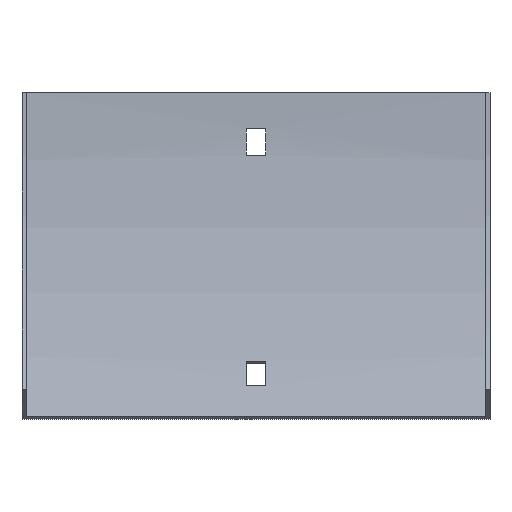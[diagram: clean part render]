
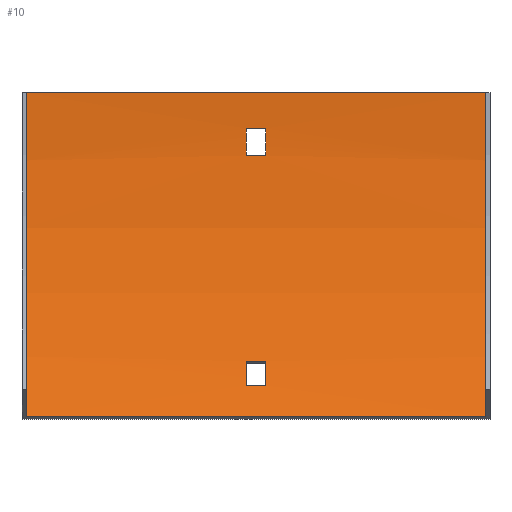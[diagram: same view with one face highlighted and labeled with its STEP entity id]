
A CAD part, front view. The second image highlights one B-rep face of the part: STEP entity #10.
In plain terms, the highlighted cylindrical face has radius 217.5 mm (diameter 435 mm), a partial arc.
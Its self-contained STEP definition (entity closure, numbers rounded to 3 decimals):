
#10 = ADVANCED_FACE ( 'NONE', ( #335, #57, #468 ), #531, .F. ) ;
#11 = DIRECTION ( 'NONE',  ( 0., 0., 1. ) ) ;
#13 = VERTEX_POINT ( 'NONE', #44 ) ;
#21 = AXIS2_PLACEMENT_3D ( 'NONE', #429, #384, #11 ) ;
#29 = EDGE_CURVE ( 'NONE', #536, #160, #91, .T. ) ;
#31 = CIRCLE ( 'NONE', #501, 217.5 ) ;
#32 = VERTEX_POINT ( 'NONE', #343 ) ;
#44 = CARTESIAN_POINT ( 'NONE',  ( -3.25, -1.831, -12. ) ) ;
#45 = CARTESIAN_POINT ( 'NONE',  ( 77., -1.5, 0. ) ) ;
#46 = EDGE_CURVE ( 'NONE', #529, #363, #461, .T. ) ;
#49 = DIRECTION ( 'NONE',  ( 0., 0., -1. ) ) ;
#52 = CARTESIAN_POINT ( 'NONE',  ( -3.25, -21.02, -90.055 ) ) ;
#55 = ORIENTED_EDGE ( 'NONE', *, *, #200, .T. ) ;
#57 = FACE_OUTER_BOUND ( 'NONE', #73, .T. ) ;
#64 = CARTESIAN_POINT ( 'NONE',  ( -3.25, -2.516, -21. ) ) ;
#73 = EDGE_LOOP ( 'NONE', ( #228, #458, #451, #178 ) ) ;
#79 = VERTEX_POINT ( 'NONE', #64 ) ;
#87 = CARTESIAN_POINT ( 'NONE',  ( -77., -1.5, 0. ) ) ;
#88 = CARTESIAN_POINT ( 'NONE',  ( -3.25, -219., 0. ) ) ;
#91 = CIRCLE ( 'NONE', #568, 217.5 ) ;
#95 = CARTESIAN_POINT ( 'NONE',  ( 77., -1.5, 0. ) ) ;
#103 = CARTESIAN_POINT ( 'NONE',  ( 78.5, -21.02, -90.055 ) ) ;
#104 = EDGE_CURVE ( 'NONE', #79, #536, #599, .T. ) ;
#105 = LINE ( 'NONE', #103, #355 ) ;
#110 = VECTOR ( 'NONE', #279, 1000. ) ;
#128 = LINE ( 'NONE', #95, #444 ) ;
#131 = VECTOR ( 'NONE', #560, 1000. ) ;
#132 = EDGE_CURVE ( 'NONE', #13, #79, #323, .T. ) ;
#150 = DIRECTION ( 'NONE',  ( 1., 0., 0. ) ) ;
#160 = VERTEX_POINT ( 'NONE', #285 ) ;
#162 = ORIENTED_EDGE ( 'NONE', *, *, #467, .F. ) ;
#167 = CIRCLE ( 'NONE', #21, 217.5 ) ;
#175 = CARTESIAN_POINT ( 'NONE',  ( -77., -30.639, -108.75 ) ) ;
#178 = ORIENTED_EDGE ( 'NONE', *, *, #231, .T. ) ;
#191 = DIRECTION ( 'NONE',  ( 1., 0., 0. ) ) ;
#200 = EDGE_CURVE ( 'NONE', #32, #529, #273, .T. ) ;
#203 = ORIENTED_EDGE ( 'NONE', *, *, #29, .F. ) ;
#204 = CARTESIAN_POINT ( 'NONE',  ( -3.25, -24.926, -98.192 ) ) ;
#209 = VERTEX_POINT ( 'NONE', #87 ) ;
#228 = ORIENTED_EDGE ( 'NONE', *, *, #378, .F. ) ;
#231 = EDGE_CURVE ( 'NONE', #367, #209, #128, .T. ) ;
#234 = EDGE_CURVE ( 'NONE', #295, #32, #31, .T. ) ;
#237 = DIRECTION ( 'NONE',  ( -1., 0., 0. ) ) ;
#238 = DIRECTION ( 'NONE',  ( 0., 0., 1. ) ) ;
#245 = EDGE_CURVE ( 'NONE', #497, #267, #466, .T. ) ;
#258 = LINE ( 'NONE', #580, #345 ) ;
#267 = VERTEX_POINT ( 'NONE', #175 ) ;
#273 = LINE ( 'NONE', #594, #131 ) ;
#279 = DIRECTION ( 'NONE',  ( 1., 0., 0. ) ) ;
#285 = CARTESIAN_POINT ( 'NONE',  ( 3.25, -1.831, -12. ) ) ;
#289 = EDGE_CURVE ( 'NONE', #363, #295, #105, .T. ) ;
#295 = VERTEX_POINT ( 'NONE', #337 ) ;
#304 = ORIENTED_EDGE ( 'NONE', *, *, #104, .F. ) ;
#305 = CARTESIAN_POINT ( 'NONE',  ( 3.25, -2.516, -21. ) ) ;
#306 = VECTOR ( 'NONE', #237, 1000. ) ;
#308 = CARTESIAN_POINT ( 'NONE',  ( 77., -30.639, -108.75 ) ) ;
#323 = CIRCLE ( 'NONE', #374, 217.5 ) ;
#325 = DIRECTION ( 'NONE',  ( -1., 0., 0. ) ) ;
#327 = CARTESIAN_POINT ( 'NONE',  ( 3.25, -219., 0. ) ) ;
#335 = FACE_BOUND ( 'NONE', #432, .T. ) ;
#337 = CARTESIAN_POINT ( 'NONE',  ( 3.25, -21.02, -90.055 ) ) ;
#338 = EDGE_CURVE ( 'NONE', #497, #367, #515, .T. ) ;
#343 = CARTESIAN_POINT ( 'NONE',  ( 3.25, -24.926, -98.192 ) ) ;
#345 = VECTOR ( 'NONE', #442, 1000. ) ;
#353 = AXIS2_PLACEMENT_3D ( 'NONE', #517, #325, #238 ) ;
#355 = VECTOR ( 'NONE', #150, 1000. ) ;
#363 = VERTEX_POINT ( 'NONE', #52 ) ;
#367 = VERTEX_POINT ( 'NONE', #45 ) ;
#368 = CARTESIAN_POINT ( 'NONE',  ( 78.5, -2.516, -21. ) ) ;
#370 = DIRECTION ( 'NONE',  ( 0., 0., 1. ) ) ;
#374 = AXIS2_PLACEMENT_3D ( 'NONE', #88, #553, #470 ) ;
#378 = EDGE_CURVE ( 'NONE', #267, #209, #167, .T. ) ;
#383 = DIRECTION ( 'NONE',  ( 0., 0., 1. ) ) ;
#384 = DIRECTION ( 'NONE',  ( 1., 0., 0. ) ) ;
#398 = EDGE_LOOP ( 'NONE', ( #55, #606, #443, #402 ) ) ;
#402 = ORIENTED_EDGE ( 'NONE', *, *, #234, .T. ) ;
#410 = DIRECTION ( 'NONE',  ( -1., 0., 0. ) ) ;
#423 = AXIS2_PLACEMENT_3D ( 'NONE', #512, #191, #484 ) ;
#426 = CARTESIAN_POINT ( 'NONE',  ( 77., -219., 0. ) ) ;
#429 = CARTESIAN_POINT ( 'NONE',  ( -77., -219., 0. ) ) ;
#431 = AXIS2_PLACEMENT_3D ( 'NONE', #426, #472, #383 ) ;
#432 = EDGE_LOOP ( 'NONE', ( #581, #162, #203, #304 ) ) ;
#442 = DIRECTION ( 'NONE',  ( -1., 0., 0. ) ) ;
#443 = ORIENTED_EDGE ( 'NONE', *, *, #289, .T. ) ;
#444 = VECTOR ( 'NONE', #410, 1000. ) ;
#451 = ORIENTED_EDGE ( 'NONE', *, *, #338, .T. ) ;
#458 = ORIENTED_EDGE ( 'NONE', *, *, #245, .F. ) ;
#461 = CIRCLE ( 'NONE', #423, 217.5 ) ;
#466 = LINE ( 'NONE', #556, #306 ) ;
#467 = EDGE_CURVE ( 'NONE', #160, #13, #258, .T. ) ;
#468 = FACE_BOUND ( 'NONE', #398, .T. ) ;
#470 = DIRECTION ( 'NONE',  ( 0., 0., 1. ) ) ;
#471 = CARTESIAN_POINT ( 'NONE',  ( 3.25, -219., 0. ) ) ;
#472 = DIRECTION ( 'NONE',  ( 1., 0., 0. ) ) ;
#484 = DIRECTION ( 'NONE',  ( 0., 0., -1. ) ) ;
#497 = VERTEX_POINT ( 'NONE', #308 ) ;
#501 = AXIS2_PLACEMENT_3D ( 'NONE', #327, #601, #370 ) ;
#512 = CARTESIAN_POINT ( 'NONE',  ( -3.25, -219., 0. ) ) ;
#515 = CIRCLE ( 'NONE', #431, 217.5 ) ;
#517 = CARTESIAN_POINT ( 'NONE',  ( 78.5, -219., 0. ) ) ;
#529 = VERTEX_POINT ( 'NONE', #204 ) ;
#531 = CYLINDRICAL_SURFACE ( 'NONE', #353, 217.5 ) ;
#536 = VERTEX_POINT ( 'NONE', #305 ) ;
#553 = DIRECTION ( 'NONE',  ( -1., 0., 0. ) ) ;
#556 = CARTESIAN_POINT ( 'NONE',  ( 77., -30.639, -108.75 ) ) ;
#560 = DIRECTION ( 'NONE',  ( -1., 0., 0. ) ) ;
#568 = AXIS2_PLACEMENT_3D ( 'NONE', #471, #574, #49 ) ;
#574 = DIRECTION ( 'NONE',  ( 1., 0., 0. ) ) ;
#580 = CARTESIAN_POINT ( 'NONE',  ( 78.5, -1.831, -12. ) ) ;
#581 = ORIENTED_EDGE ( 'NONE', *, *, #132, .F. ) ;
#594 = CARTESIAN_POINT ( 'NONE',  ( 78.5, -24.926, -98.192 ) ) ;
#599 = LINE ( 'NONE', #368, #110 ) ;
#601 = DIRECTION ( 'NONE',  ( -1., 0., 0. ) ) ;
#606 = ORIENTED_EDGE ( 'NONE', *, *, #46, .T. ) ;
